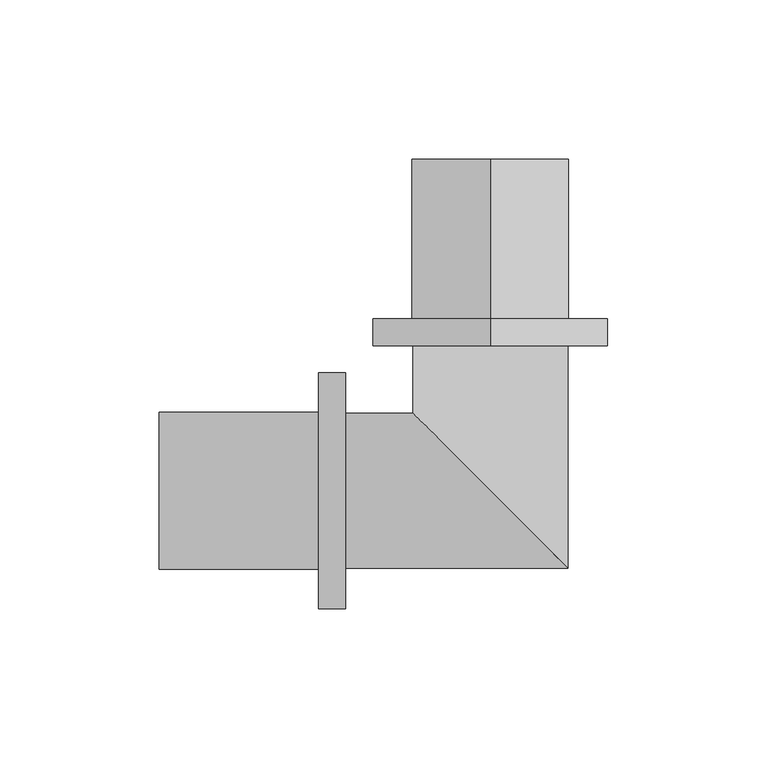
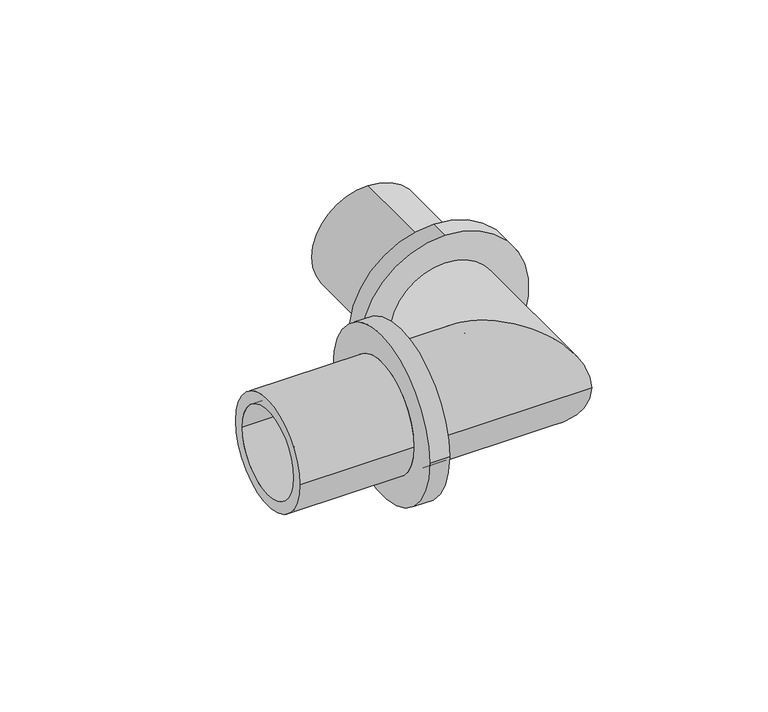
"""IFC4 building model written with IfcOpenShell, lengths in millimetres: pipe fitting geometry, RAUTITAN_Corner_LX : RTI LX C DE."""

from ifc_helpers import new_model, si_unit, frame, origin, place, context, project, spatial, polyline, circle_curve, ellipse_curve, source, transform, mapped, element, save
from ifc_brep_helpers import plane_surface, cylinder_surface, revolved_surface, advanced_brep


def pipe_fitting_dda8fcc3(model_context):
    return source(origin(), model_context, "Body", "AdvancedBrep", [
        advanced_brep(
        [(0.0, 54.0, 37.0), (0.0, 54.0, -37.0), (0.0, 45.5, -37.0), (0.0, 45.5, 37.0), (0.0, 104.0, 24.6), (0.0, 104.0, -24.6), (0.0, 54.0, -24.6), (0.0, 54.0, 24.6), (0.0, 45.5, 19.5), (0.0, 45.5, -19.5), (0.0, 104.0, -19.5), (0.0, 104.0, 19.5)],
        [
            (0, 1, circle_curve(frame((0.0, 54.0, 0.0), z_axis=(0.0, -1.0, 0.0), x_axis=(0.0, 0.0, -1.0)), 37.0)),
            (1, 2),
            (2, 3, circle_curve(frame((0.0, 45.5, 0.0), z_axis=(0.0, 1.0, 0.0), x_axis=(0.0, 0.0, -1.0)), 37.0)),
            (3, 0),
            (4, 5, circle_curve(frame((0.0, 104.0, 0.0), z_axis=(0.0, -1.0, 0.0), x_axis=(0.0, 0.0, -1.0)), 24.6)),
            (5, 6),
            (6, 7, circle_curve(frame((0.0, 54.0, 0.0), z_axis=(0.0, 1.0, 0.0), x_axis=(0.0, 0.0, -1.0)), 24.6)),
            (7, 4),
            (8, 9, circle_curve(frame((0.0, 45.5, 0.0), z_axis=(0.0, -1.0, 0.0), x_axis=(0.0, 0.0, -1.0)), 19.5)),
            (9, 10),
            (10, 11, circle_curve(frame((0.0, 104.0, 0.0), z_axis=(0.0, 1.0, 0.0), x_axis=(0.0, 0.0, -1.0)), 19.5)),
            (11, 8),
            (1, 0, circle_curve(frame((0.0, 54.0, 0.0), z_axis=(0.0, -1.0, 0.0), x_axis=(0.0, 0.0, 1.0)), 37.0)),
            (3, 2, circle_curve(frame((0.0, 45.5, 0.0), z_axis=(0.0, 1.0, 0.0), x_axis=(0.0, 0.0, 1.0)), 37.0)),
            (6, 7, circle_curve(frame((0.0, 54.0, 0.0), z_axis=(0.0, -1.0, 0.0), x_axis=(0.0, 0.0, 1.0)), 24.6)),
            (5, 4, circle_curve(frame((0.0, 104.0, 0.0), z_axis=(0.0, -1.0, 0.0), x_axis=(0.0, 0.0, 1.0)), 24.6)),
            (10, 11, circle_curve(frame((0.0, 104.0, 0.0), z_axis=(0.0, -1.0, 0.0), x_axis=(0.0, 0.0, 1.0)), 19.5)),
            (9, 8, circle_curve(frame((0.0, 45.5, 0.0), z_axis=(0.0, -1.0, 0.0), x_axis=(0.0, 0.0, 1.0)), 19.5)),
        ],
        [
            cylinder_surface(frame((0.0, 45.5, 0.0), z_axis=(0.0, 1.0, 0.0), x_axis=(0.0, 0.0, -1.0)), 37.0),
            cylinder_surface(frame((0.0, 45.5, 0.0), z_axis=(0.0, 1.0, 0.0), x_axis=(0.0, 0.0, -1.0)), 24.6),
            revolved_surface(polyline([(0.0, 104.0, -19.5), (0.0, 45.5, -19.5)]), (0.0, 45.5, 0.0), (0.0, 1.0, 0.0)),
            cylinder_surface(frame((0.0, 45.5, 0.0), z_axis=(0.0, 1.0, 0.0), x_axis=(0.0, 0.0, 1.0)), 37.0),
            plane_surface(frame((0.0, 54.0, 0.0), z_axis=(0.0, 1.0, 0.0), x_axis=(0.0, 0.0, 1.0))),
            cylinder_surface(frame((0.0, 45.5, 0.0), z_axis=(0.0, 1.0, 0.0), x_axis=(0.0, 0.0, 1.0)), 24.6),
            plane_surface(frame((0.0, 104.0, 0.0), z_axis=(0.0, 1.0, 0.0), x_axis=(0.0, 0.0, 1.0))),
            revolved_surface(polyline([(0.0, 104.0, 19.5), (0.0, 45.5, 19.5)]), (0.0, 45.5, 0.0), (0.0, 1.0, 0.0)),
            plane_surface(frame((0.0, 45.5, 0.0), z_axis=(0.0, -1.0, 0.0), x_axis=(0.0, 0.0, 1.0))),
        ],
        [
            (0, [[1, 2, 3, 4]]),
            (1, [[5, 6, 7, 8]]),
            (2, [[9, 10, 11, 12]]),
            (3, [[13, -4, 14, -2]]),
            (4, [[-13, -1], [15, -7]]),
            (5, [[16, -8, -15, -6]]),
            (6, [[-16, -5], [17, -11]]),
            (7, [[18, -12, -17, -10]]),
            (8, [[-14, -3], [-18, -9]]),
        ],
    ),
        advanced_brep(
        [(-54.0, -37.0, 0.0), (-54.0, 37.0, 0.0), (-45.5, 37.0, 0.0), (-45.5, -37.0, 0.0), (-104.0, -24.6, 0.0), (-104.0, 24.6, 0.0), (-54.0, 24.6, 0.0), (-54.0, -24.6, 0.0), (-45.5, -19.5, 0.0), (-45.5, 19.5, 0.0), (-104.0, 19.5, 0.0), (-104.0, -19.5, 0.0)],
        [
            (0, 1, circle_curve(frame((-54.0, 0.0, 0.0), z_axis=(1.0, 0.0, 0.0), x_axis=(0.0, 1.0, 0.0)), 37.0)),
            (1, 2),
            (2, 3, circle_curve(frame((-45.5, 0.0, 0.0), z_axis=(-1.0, 0.0, 0.0), x_axis=(0.0, 1.0, 0.0)), 37.0)),
            (3, 0),
            (4, 5, circle_curve(frame((-104.0, 0.0, 0.0), z_axis=(1.0, 0.0, 0.0), x_axis=(0.0, 1.0, 0.0)), 24.6)),
            (5, 6),
            (6, 7, circle_curve(frame((-54.0, 0.0, 0.0), z_axis=(-1.0, 0.0, 0.0), x_axis=(0.0, 1.0, 0.0)), 24.6)),
            (7, 4),
            (8, 9, circle_curve(frame((-45.5, 0.0, 0.0), z_axis=(1.0, 0.0, 0.0), x_axis=(0.0, 1.0, 0.0)), 19.5)),
            (9, 10),
            (10, 11, circle_curve(frame((-104.0, 0.0, 0.0), z_axis=(-1.0, 0.0, 0.0), x_axis=(0.0, 1.0, 0.0)), 19.5)),
            (11, 8),
            (1, 0, circle_curve(frame((-54.0, 0.0, 0.0), z_axis=(1.0, 0.0, 0.0), x_axis=(0.0, -1.0, 0.0)), 37.0)),
            (3, 2, circle_curve(frame((-45.5, 0.0, 0.0), z_axis=(-1.0, 0.0, 0.0), x_axis=(0.0, -1.0, 0.0)), 37.0)),
            (6, 7, circle_curve(frame((-54.0, 0.0, 0.0), z_axis=(1.0, 0.0, 0.0), x_axis=(0.0, -1.0, 0.0)), 24.6)),
            (5, 4, circle_curve(frame((-104.0, 0.0, 0.0), z_axis=(1.0, 0.0, 0.0), x_axis=(0.0, -1.0, 0.0)), 24.6)),
            (10, 11, circle_curve(frame((-104.0, 0.0, 0.0), z_axis=(1.0, 0.0, 0.0), x_axis=(0.0, -1.0, 0.0)), 19.5)),
            (9, 8, circle_curve(frame((-45.5, 0.0, 0.0), z_axis=(1.0, 0.0, 0.0), x_axis=(0.0, -1.0, 0.0)), 19.5)),
        ],
        [
            cylinder_surface(frame((-45.5, 0.0, 0.0), z_axis=(-1.0, 0.0, 0.0), x_axis=(0.0, 1.0, 0.0)), 37.0),
            cylinder_surface(frame((-45.5, 0.0, 0.0), z_axis=(-1.0, 0.0, 0.0), x_axis=(0.0, 1.0, 0.0)), 24.6),
            revolved_surface(polyline([(-104.0, 19.5, 0.0), (-45.5, 19.5, 0.0)]), (-45.5, 0.0, 0.0), (-1.0, 0.0, 0.0)),
            cylinder_surface(frame((-45.5, 0.0, 0.0), z_axis=(-1.0, 0.0, 0.0), x_axis=(0.0, -1.0, 0.0)), 37.0),
            plane_surface(frame((-54.0, 0.0, 0.0), z_axis=(-1.0, 0.0, 0.0), x_axis=(0.0, -1.0, 0.0))),
            cylinder_surface(frame((-45.5, 0.0, 0.0), z_axis=(-1.0, 0.0, 0.0), x_axis=(0.0, -1.0, 0.0)), 24.6),
            plane_surface(frame((-104.0, 0.0, 0.0), z_axis=(-1.0, 0.0, 0.0), x_axis=(0.0, -1.0, 0.0))),
            revolved_surface(polyline([(-104.0, -19.5, 0.0), (-45.5, -19.5, 0.0)]), (-45.5, 0.0, 0.0), (-1.0, 0.0, 0.0)),
            plane_surface(frame((-45.5, 0.0, 0.0), z_axis=(1.0, 0.0, 0.0), x_axis=(0.0, -1.0, 0.0))),
        ],
        [
            (0, [[1, 2, 3, 4]]),
            (1, [[5, 6, 7, 8]]),
            (2, [[9, 10, 11, 12]]),
            (3, [[13, -4, 14, -2]]),
            (4, [[-13, -1], [15, -7]]),
            (5, [[16, -8, -15, -6]]),
            (6, [[-16, -5], [17, -11]]),
            (7, [[18, -12, -17, -10]]),
            (8, [[-14, -3], [-18, -9]]),
        ],
    ),
        advanced_brep(
        [(-45.5, -24.3, 0.0), (-45.5, 24.3, 0.0), (-45.5, -19.5, 0.0), (-45.5, 19.5, 0.0), (-19.5, 19.5, 0.0), (19.5, -19.5, 0.0), (24.3, 45.5, 0.0), (-24.3, 45.5, 0.0), (19.5, 45.5, 0.0), (-19.5, 45.5, 0.0), (24.3, -24.3, 0.0), (-24.3, 24.3, 0.0)],
        [
            (0, 1, circle_curve(frame((-45.5, 0.0, 0.0), z_axis=(-1.0, 0.0, 0.0), x_axis=(0.0, 1.0, 0.0)), 24.3)),
            (1, 0, circle_curve(frame((-45.5, 0.0, 0.0), z_axis=(-1.0, 0.0, 0.0), x_axis=(0.0, 1.0, 0.0)), 24.3)),
            (2, 3, circle_curve(frame((-45.5, 0.0, 0.0), z_axis=(1.0, 0.0, 0.0), x_axis=(0.0, 1.0, 0.0)), 19.5)),
            (3, 2, circle_curve(frame((-45.5, 0.0, 0.0), z_axis=(1.0, 0.0, 0.0), x_axis=(0.0, 1.0, 0.0)), 19.5)),
            (3, 4),
            (4, 5, ellipse_curve(frame((0.0, 0.0, 0.0), z_axis=(0.707106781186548, 0.7071067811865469, 0.0), x_axis=(0.7071067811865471, -0.7071067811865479, 0.0)), 27.5771645, 19.5)),
            (5, 2),
            (5, 4, ellipse_curve(frame((0.0, 0.0, 0.0), z_axis=(0.707106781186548, 0.7071067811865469, 0.0), x_axis=(0.7071067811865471, -0.7071067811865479, 0.0)), 27.5771645, 19.5)),
            (6, 7, circle_curve(frame((0.0, 45.5, 0.0), z_axis=(0.0, 1.0, 0.0), x_axis=(-1.0, 0.0, 0.0)), 24.3)),
            (7, 6, circle_curve(frame((0.0, 45.5, 0.0), z_axis=(0.0, 1.0, 0.0), x_axis=(-1.0, 0.0, 0.0)), 24.3)),
            (8, 9, circle_curve(frame((0.0, 45.5, 0.0), z_axis=(0.0, -1.0, 0.0), x_axis=(-1.0, 0.0, 0.0)), 19.5)),
            (9, 8, circle_curve(frame((0.0, 45.5, 0.0), z_axis=(0.0, -1.0, 0.0), x_axis=(-1.0, 0.0, 0.0)), 19.5)),
            (4, 9),
            (8, 5),
            (0, 10),
            (10, 11, ellipse_curve(frame((0.0, 0.0, 0.0), z_axis=(-0.707106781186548, -0.7071067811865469, 0.0), x_axis=(-0.7071067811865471, 0.7071067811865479, 0.0)), 34.3653896, 24.3)),
            (11, 1),
            (11, 10, ellipse_curve(frame((0.0, 0.0, 0.0), z_axis=(-0.707106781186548, -0.7071067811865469, 0.0), x_axis=(-0.7071067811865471, 0.7071067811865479, 0.0)), 34.3653896, 24.3)),
            (10, 6),
            (7, 11),
        ],
        [
            plane_surface(frame((-45.5, 0.0, 0.0), z_axis=(-1.0, 0.0, 0.0), x_axis=(0.0, 0.0, 1.0))),
            revolved_surface(polyline([(19.500000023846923, 19.5, 0.0), (-45.5, 19.5, 0.0)]), (-45.5, 0.0, 0.0), (1.0, 0.0, 0.0)),
            plane_surface(frame((0.0, 45.5, 0.0), z_axis=(0.0, 1.0, 0.0), x_axis=(0.0, 0.0, 1.0))),
            revolved_surface(polyline([(-19.5, 45.5, 0.0), (-19.5, -19.500000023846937, 0.0)]), (0.0, 0.0, 0.0), (0.0, 1.0, 0.0)),
            cylinder_surface(frame((-45.5, 0.0, 0.0), z_axis=(-1.0, 0.0, 0.0), x_axis=(0.0, 1.0, 0.0)), 24.3),
            cylinder_surface(frame((0.0, 0.0, 0.0), z_axis=(0.0, -1.0, 0.0), x_axis=(-1.0, 0.0, 0.0)), 24.3),
        ],
        [
            (0, [[1, 2], [3, 4]]),
            (1, [[-4, 5, 6, 7]]),
            (1, [[-3, -7, 8, -5]]),
            (2, [[9, 10], [11, 12]]),
            (3, [[-6, 13, -11, 14]]),
            (3, [[-8, -14, -12, -13]]),
            (4, [[-1, 15, 16, 17]]),
            (4, [[-2, -17, 18, -15]]),
            (5, [[-16, 19, -10, 20]]),
            (5, [[-18, -20, -9, -19]]),
        ],
    ),
    ])


if __name__ == "__main__":
    model = new_model("IFC4")
    model_context = context("Model", 3, world=origin())
    ifc_project = project(units=[si_unit("LENGTHUNIT", "METRE", prefix="MILLI")], contexts=[model_context])
    site = spatial("IfcSite", under=ifc_project)
    building = spatial("IfcBuilding", under=site)
    placement = place(None, origin())
    pipe_fitting_shape = pipe_fitting_dda8fcc3(model_context)
    element("IfcPipeFitting", 1, ObjectType="RAUTITAN_Corner_LX : RTI LX C DE", at=placement, inside=building, context=model_context, shape_type="MappedRepresentation", body=[
        mapped(pipe_fitting_shape, transform((0.0, 0.0, 0.0), x_axis=(1.0, 0.0, 0.0), y_axis=(0.0, 1.0, 0.0), z_axis=(0.0, 0.0, 1.0))),
    ])
    save(model, "model.ifc")
